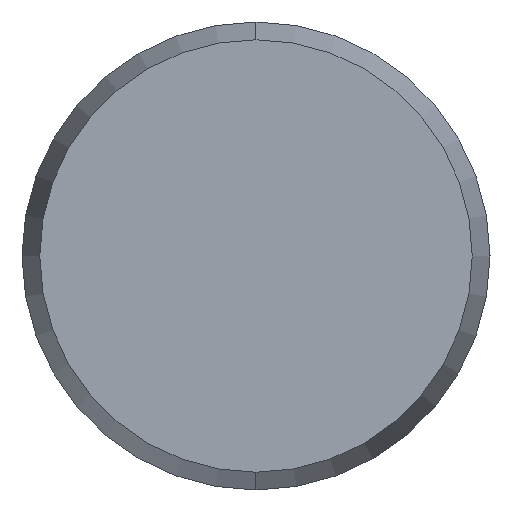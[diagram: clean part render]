
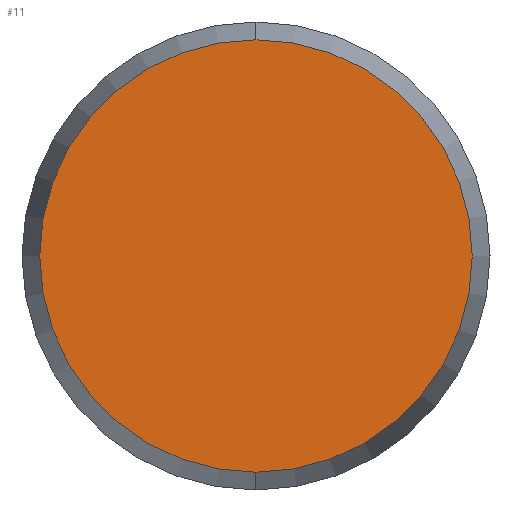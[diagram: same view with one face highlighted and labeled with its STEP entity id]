
A CAD part, left-side view. The second image highlights one B-rep face of the part: STEP entity #11.
In plain terms, the highlighted planar face has unit normal (-1, 0, 0).
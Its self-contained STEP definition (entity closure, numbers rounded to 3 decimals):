
#1 = FACE_OUTER_BOUND ( 'NONE', #9, .T. ) ;
#3 = ORIENTED_EDGE ( 'NONE', *, *, #64, .F. ) ;
#8 = ORIENTED_EDGE ( 'NONE', *, *, #24, .F. ) ;
#9 = EDGE_LOOP ( 'NONE', ( #8, #3 ) ) ;
#11 = ADVANCED_FACE ( 'NONE', ( #1 ), #20, .F. ) ;
#16 = CARTESIAN_POINT ( 'NONE',  ( -45., 0., 0. ) ) ;
#17 = AXIS2_PLACEMENT_3D ( 'NONE', #16, #18, #19 ) ;
#18 = DIRECTION ( 'NONE',  ( 1., 0., 0. ) ) ;
#19 = DIRECTION ( 'NONE',  ( 0., 0., -1. ) ) ;
#20 = PLANE ( 'NONE',  #17 ) ;
#24 = EDGE_CURVE ( 'NONE', #25, #26, #155, .T. ) ;
#25 = VERTEX_POINT ( 'NONE', #151 ) ;
#26 = VERTEX_POINT ( 'NONE', #150 ) ;
#64 = EDGE_CURVE ( 'NONE', #26, #25, #248, .T. ) ;
#150 = CARTESIAN_POINT ( 'NONE',  ( -45., 0., -5.544 ) ) ;
#151 = CARTESIAN_POINT ( 'NONE',  ( -45., 0., 5.544 ) ) ;
#152 = DIRECTION ( 'NONE',  ( 0., 0., -1. ) ) ;
#153 = DIRECTION ( 'NONE',  ( 1., 0., 0. ) ) ;
#154 = AXIS2_PLACEMENT_3D ( 'NONE', #158, #153, #152 ) ;
#155 = CIRCLE ( 'NONE', #154, 5.544 ) ;
#158 = CARTESIAN_POINT ( 'NONE',  ( -45., 0., 0. ) ) ;
#244 = DIRECTION ( 'NONE',  ( 0., 0., -1. ) ) ;
#245 = DIRECTION ( 'NONE',  ( 1., 0., 0. ) ) ;
#246 = CARTESIAN_POINT ( 'NONE',  ( -45., 0., 0. ) ) ;
#247 = AXIS2_PLACEMENT_3D ( 'NONE', #246, #245, #244 ) ;
#248 = CIRCLE ( 'NONE', #247, 5.544 ) ;
